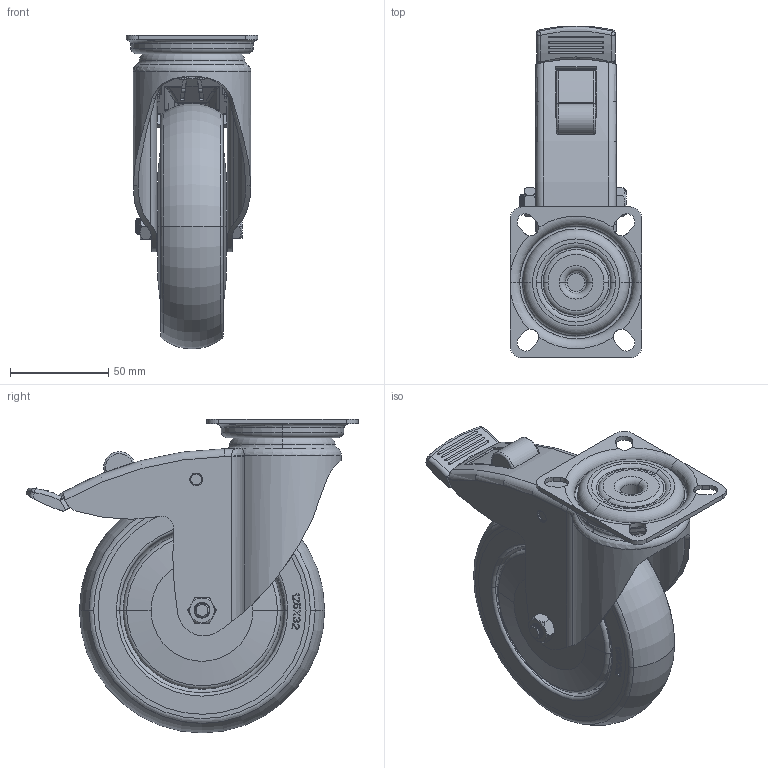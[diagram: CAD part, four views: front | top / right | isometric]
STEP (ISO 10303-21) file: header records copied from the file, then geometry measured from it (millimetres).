
FILE_DESCRIPTION((''),'2;1');
FILE_NAME('5102-125-1_ASM','2018-09-15T',('new'),(''),'PRO/ENGINEER BY PARAMETRIC TECHNOLOGY CORPORATION, 2015240','PRO/ENGINEER BY PARAMETRIC TECHNOLOGY CORPORATION, 2015240','');
FILE_SCHEMA(('CONFIG_CONTROL_DESIGN'));
Length unit declared in the file: millimetre
Products named in the file (15): ZJ__1; BJ6__1; BJ5__1; 150X32SBP-DS__1; M8X60LS__1; M8LM__1; 150-TENTE-SAWEI__1; 150-TENTE-MP__1; 125X32NS__1; 125X32DL__1; 6202Z__1; 125X32JSG__1; 5102-125-1-DL_ASM; 67X77-FK_1; 5102-125-1_ASM
Assembly tree (15 placements, depth 3):
  5102-125-1_ASM
    ZJ__1
    BJ6__1
    BJ5__1
    150X32SBP-DS__1
    M8X60LS__1
    M8LM__1
    150-TENTE-SAWEI__1
    150-TENTE-MP__1
    5102-125-1-DL_ASM
      125X32NS__1
      125X32DL__1
      6202Z__1
      125X32JSG__1  x2
    67X77-FK_1
Bounding box: 67 x 169.25 x 160 mm (x, y, z)
Volume: 356162.9 mm3; surface area: 185522.8 mm2
Topology: 70 solids, 70 shells, 1543 faces, 4151 edges, 2558 vertices
Faces by surface type: plane 777, cylinder 320, torus 163, sphere 140, cone 82, bspline 61
Entity records: 53232 total; most frequent: CARTESIAN_POINT 16862, ORIENTED_EDGE 7666, DIRECTION 7287, EDGE_CURVE 3833, AXIS2_PLACEMENT_3D 2544, VERTEX_POINT 2508, VECTOR 2199, LINE 2199
